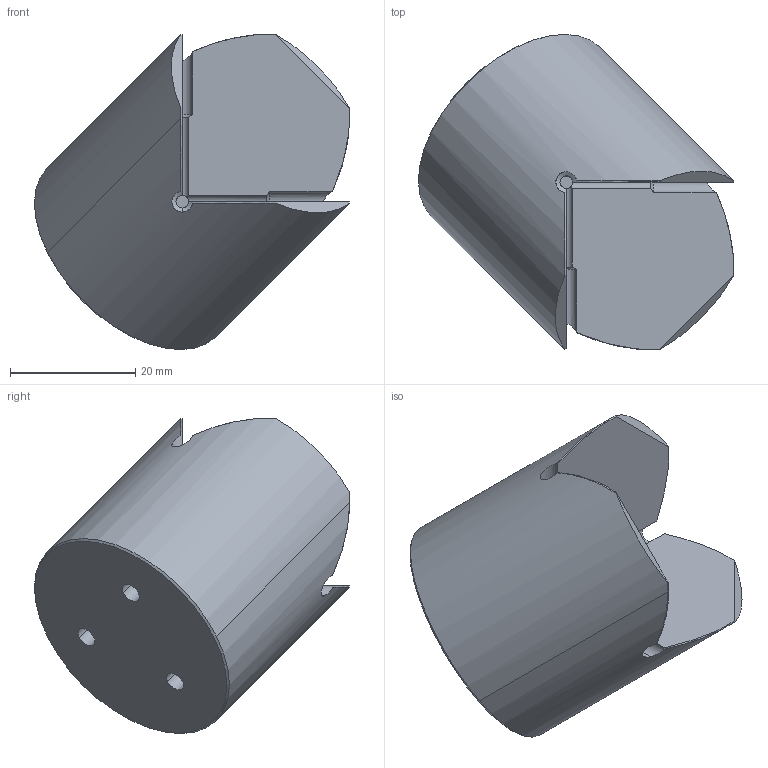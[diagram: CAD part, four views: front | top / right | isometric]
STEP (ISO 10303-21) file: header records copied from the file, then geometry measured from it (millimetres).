
FILE_DESCRIPTION (( 'STEP AP214' ), '1' );
FILE_NAME ('俋褲.STEP', '2026-10-09T01:01:45', ( '' ), ( '' ), 'SwSTEP 2.0', 'SolidWorks 2024', '' );
FILE_SCHEMA (( 'AUTOMOTIVE_DESIGN' ));
Length unit declared in the file: millimetre
Products named in the file (1): 外壳
Bounding box: 50.28 x 50.28 x 50.27 mm (x, y, z)
Volume: 32478.6 mm3; surface area: 7801.7 mm2
Topology: 1 solids, 1 shells, 59 faces, 145 edges, 85 vertices
Faces by surface type: cylinder 30, cone 13, plane 10, bspline 6
Entity records: 2270 total; most frequent: CARTESIAN_POINT 1001, ORIENTED_EDGE 278, DIRECTION 239, EDGE_CURVE 139, AXIS2_PLACEMENT_3D 98, VERTEX_POINT 85, EDGE_LOOP 62, FACE_OUTER_BOUND 59
